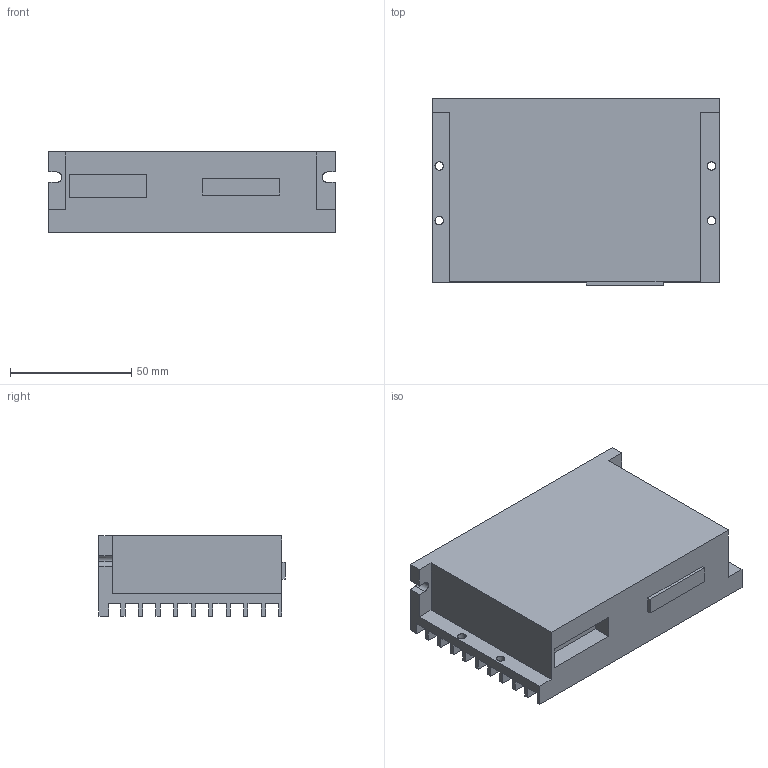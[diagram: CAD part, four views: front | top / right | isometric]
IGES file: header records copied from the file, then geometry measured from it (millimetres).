
Start section: Data from XPlus IGES,  Spatial Corp. Copyright (c) 1999-2006 .
Global section: file name: export0.igs; native system:  By Spatial Corp.; preprocessor: XPlus ACIS/IGES; author: Noname; organization: Noname; date: 20100529.144405; units: centimetre
Bounding box: 118.11 x 76.71 x 33.02 mm (x, y, z)
Surface area: 42667.4 mm2 (no closed solid volume)
Topology: 0 solids, 0 shells, 81 faces, 494 edges, 494 vertices
Faces by surface type: bspline 81
